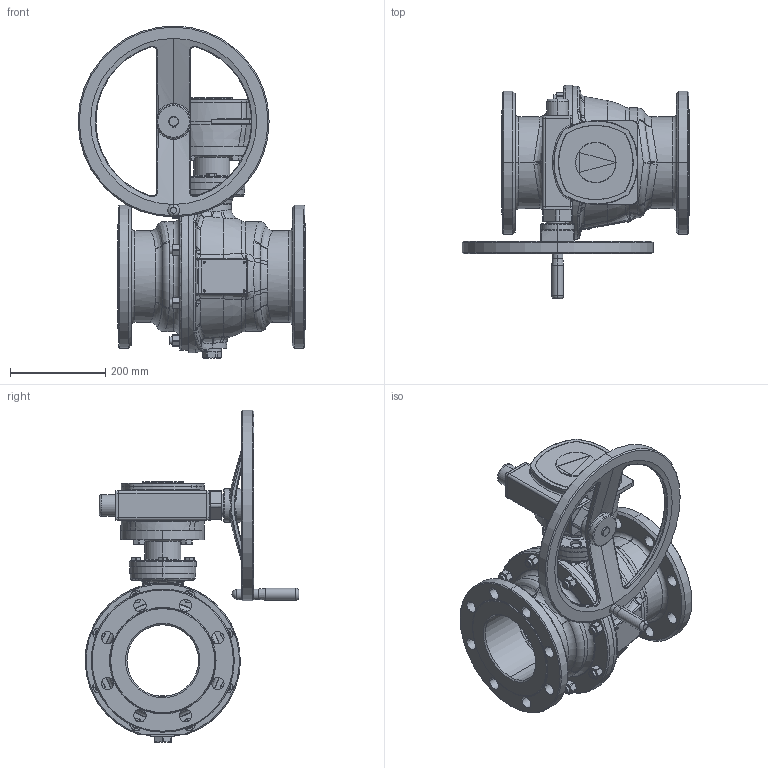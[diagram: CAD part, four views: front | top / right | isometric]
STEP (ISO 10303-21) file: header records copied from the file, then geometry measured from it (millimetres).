
FILE_DESCRIPTION((''),'2;1');
FILE_NAME('KHI150_GS80_ASM','2017-04-25T',('schwaba'),('RAND'),'PRO/ENGINEER BY PARAMETRIC TECHNOLOGY CORPORATION, 2016360','PRO/ENGINEER BY PARAMETRIC TECHNOLOGY CORPORATION, 2016360','');
FILE_SCHEMA(('CONFIG_CONTROL_DESIGN'));
Products named in the file (3): KHI_150_PN25-40_FR_WE_O_IT; GS80_F14_AHR400_ZWSTK_DN150; KHI150_GS80_ASM
Assembly tree (2 placements, depth 2):
  KHI150_GS80_ASM
    KHI_150_PN25-40_FR_WE_O_IT
    GS80_F14_AHR400_ZWSTK_DN150
Bounding box: 477 x 447.44 x 695.5 mm (x, y, z)
Volume: 14413001.6 mm3; surface area: 1790004.1 mm2
Topology: 2 solids, 6 shells, 1909 faces, 4525 edges, 2698 vertices
Faces by surface type: cylinder 501, cone 405, plane 389, bspline 364, torus 223, sphere 27
Entity records: 135818 total; most frequent: CARTESIAN_POINT 93904, ORIENTED_EDGE 9002, DIRECTION 8601, EDGE_CURVE 4501, AXIS2_PLACEMENT_3D 3711, VERTEX_POINT 2697, CIRCLE 2161, EDGE_LOOP 2076
